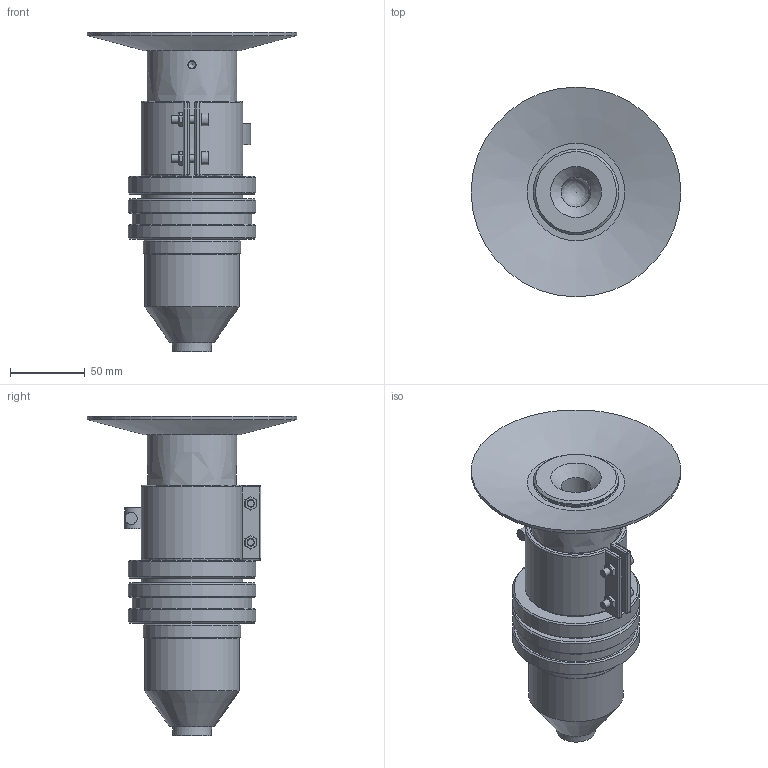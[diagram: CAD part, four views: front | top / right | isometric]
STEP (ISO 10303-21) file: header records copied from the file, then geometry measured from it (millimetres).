
FILE_DESCRIPTION(('STEP AP214'),'1');
FILE_NAME('IPS5000-C.stp','2018-06-13T13:44:44',(' '),(' '),'Spatial InterOp 3D',' ',' ');
FILE_SCHEMA(('AUTOMOTIVE_DESIGN { 1 0 10303 214 1 1 1 1 }'));
Length unit declared in the file: millimetre
Products named in the file (1): 1
Bounding box: 140 x 140 x 213.05 mm (x, y, z)
Volume: 634044.3 mm3; surface area: 153089.4 mm2
Topology: 9 solids, 9 shells, 223 faces, 462 edges, 265 vertices
Faces by surface type: plane 93, cylinder 58, cone 43, sphere 12, revolution 10, torus 6, bspline 1
Full cylindrical faces by diameter (mm): 3 x1, 4.2 x2, 5 x3, 5.5 x4, 6.55 x1, 8 x1, 8.5 x2, 11.6 x1, 12 x1, 12.01 x1, 19.5 x1, 19.52 x1, 45 x2, 54 x1, 57 x3, 63.5 x1, 65 x1, 67.8 x1, 68 x2, 80 x1, 85 x3, 140 x1
Entity records: 7345 total; most frequent: CARTESIAN_POINT 1226, DIRECTION 956, ORIENTED_EDGE 680, AXIS2_PLACEMENT_3D 392, EDGE_LOOP 350, EDGE_CURVE 340, FACE_OUTER_BOUND 269, VERTEX_POINT 249
